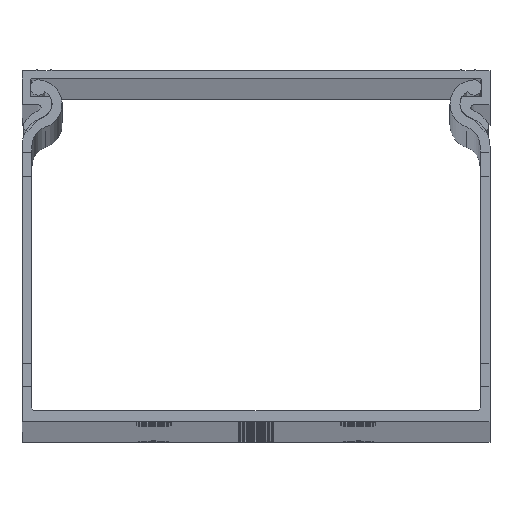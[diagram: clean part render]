
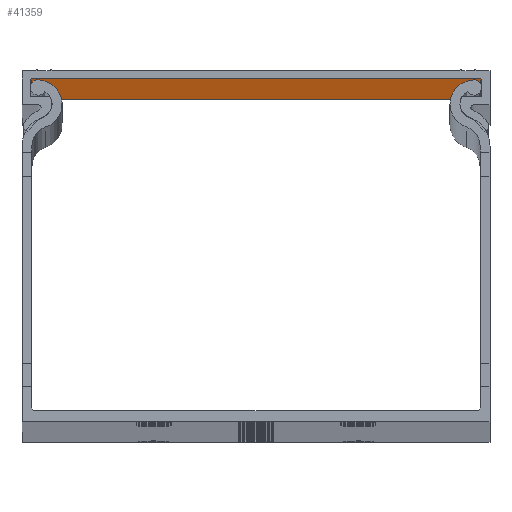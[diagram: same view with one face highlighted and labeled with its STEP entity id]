
A CAD part, top view. The second image highlights one B-rep face of the part: STEP entity #41359.
In plain terms, the highlighted planar face has unit normal (0, -1, 0).
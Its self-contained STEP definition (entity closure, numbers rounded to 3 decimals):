
#86 = DIRECTION ( 'NONE',  ( 1., 0., 0. ) ) ;
#1933 = CARTESIAN_POINT ( 'NONE',  ( 2568.407, 1295.656, 2000. ) ) ;
#2168 = DIRECTION ( 'NONE',  ( 0., 0., -1. ) ) ;
#5422 = VERTEX_POINT ( 'NONE', #25764 ) ;
#6078 = VERTEX_POINT ( 'NONE', #35540 ) ;
#6266 = VECTOR ( 'NONE', #34818, 1000. ) ;
#6707 = DIRECTION ( 'NONE',  ( 0., 1., 0. ) ) ;
#7218 = ORIENTED_EDGE ( 'NONE', *, *, #26309, .T. ) ;
#8844 = EDGE_LOOP ( 'NONE', ( #23381, #51894, #11626, #7218 ) ) ;
#9814 = DIRECTION ( 'NONE',  ( 1., 0., 0. ) ) ;
#11626 = ORIENTED_EDGE ( 'NONE', *, *, #29396, .F. ) ;
#14452 = EDGE_CURVE ( 'NONE', #6078, #14611, #45851, .T. ) ;
#14611 = VERTEX_POINT ( 'NONE', #18446 ) ;
#18446 = CARTESIAN_POINT ( 'NONE',  ( 2606.807, 1295.656, 0. ) ) ;
#19384 = FACE_OUTER_BOUND ( 'NONE', #8844, .T. ) ;
#20221 = CARTESIAN_POINT ( 'NONE',  ( 2530.007, 1295.656, 0. ) ) ;
#22596 = VECTOR ( 'NONE', #9814, 1000. ) ;
#22857 = VECTOR ( 'NONE', #86, 1000. ) ;
#23381 = ORIENTED_EDGE ( 'NONE', *, *, #36743, .T. ) ;
#25764 = CARTESIAN_POINT ( 'NONE',  ( 2530.007, 1295.656, 2000. ) ) ;
#25993 = CARTESIAN_POINT ( 'NONE',  ( 2606.807, 1295.656, 2000. ) ) ;
#26309 = EDGE_CURVE ( 'NONE', #5422, #32893, #27827, .T. ) ;
#26598 = PLANE ( 'NONE',  #43537 ) ;
#27827 = LINE ( 'NONE', #52879, #42357 ) ;
#29396 = EDGE_CURVE ( 'NONE', #5422, #6078, #41730, .T. ) ;
#31355 = DIRECTION ( 'NONE',  ( 0., 0., 1. ) ) ;
#32893 = VERTEX_POINT ( 'NONE', #20221 ) ;
#34818 = DIRECTION ( 'NONE',  ( 0., 0., -1. ) ) ;
#35333 = LINE ( 'NONE', #50598, #22857 ) ;
#35540 = CARTESIAN_POINT ( 'NONE',  ( 2606.807, 1295.656, 2000. ) ) ;
#36743 = EDGE_CURVE ( 'NONE', #32893, #14611, #35333, .T. ) ;
#41359 = ADVANCED_FACE ( 'NONE', ( #19384 ), #26598, .F. ) ;
#41730 = LINE ( 'NONE', #42812, #22596 ) ;
#42357 = VECTOR ( 'NONE', #2168, 1000. ) ;
#42812 = CARTESIAN_POINT ( 'NONE',  ( 2568.407, 1295.656, 2000. ) ) ;
#43537 = AXIS2_PLACEMENT_3D ( 'NONE', #1933, #6707, #31355 ) ;
#45851 = LINE ( 'NONE', #25993, #6266 ) ;
#50598 = CARTESIAN_POINT ( 'NONE',  ( 2568.407, 1295.656, 0. ) ) ;
#51894 = ORIENTED_EDGE ( 'NONE', *, *, #14452, .F. ) ;
#52879 = CARTESIAN_POINT ( 'NONE',  ( 2530.007, 1295.656, 2000. ) ) ;
